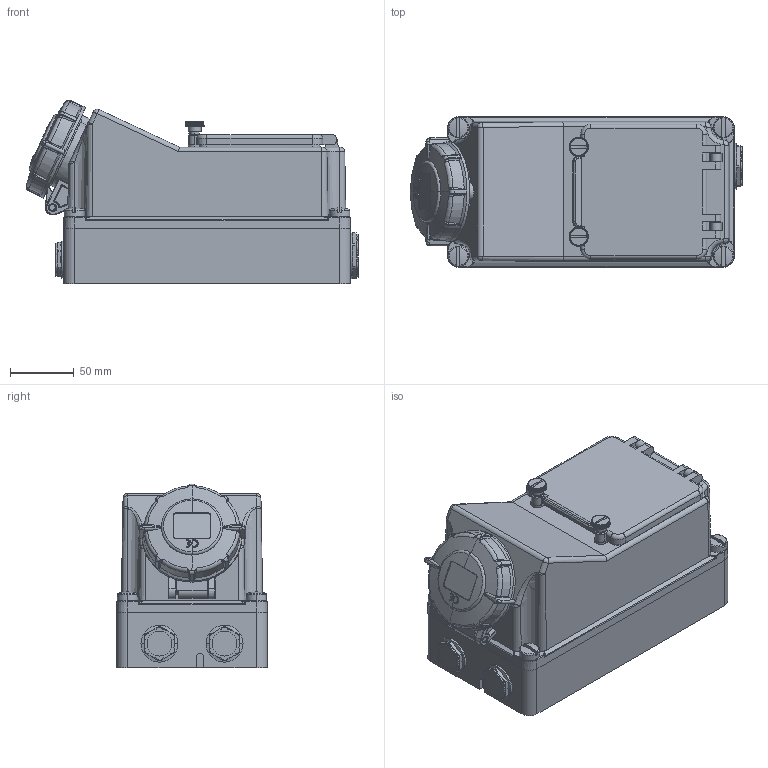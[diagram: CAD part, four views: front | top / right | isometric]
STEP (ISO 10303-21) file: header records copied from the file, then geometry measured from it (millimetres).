
FILE_DESCRIPTION((''),'2;1');
FILE_NAME('1114938_ASM_SW0001','2018-04-16T',('gisse'),('MENNEKES'),'PRO/ENGINEER BY PARAMETRIC TECHNOLOGY CORPORATION, 2015440','PRO/ENGINEER BY PARAMETRIC TECHNOLOGY CORPORATION, 2015440','');
FILE_SCHEMA(('AUTOMOTIVE_DESIGN { 1 0 10303 214 1 1 1 1 }'));
Products named in the file (1): 1114938_ASM_SW0001
Bounding box: 260.45 x 118 x 144.13 mm (x, y, z)
Volume: 2993669.3 mm3; surface area: 152711 mm2
Topology: 1 solids, 1 shells, 1442 faces, 3879 edges, 2464 vertices
Faces by surface type: plane 591, cylinder 308, cone 254, bspline 183, torus 78, sphere 28
Entity records: 88171 total; most frequent: CARTESIAN_POINT 25752, ORIENTED_EDGE 7758, DIRECTION 6257, PRESENTATION_STYLE_ASSIGNMENT 5270, STYLED_ITEM 3880, CURVE_STYLE 3879, EDGE_CURVE 3879, FILL_AREA_STYLE_COLOUR 2781
